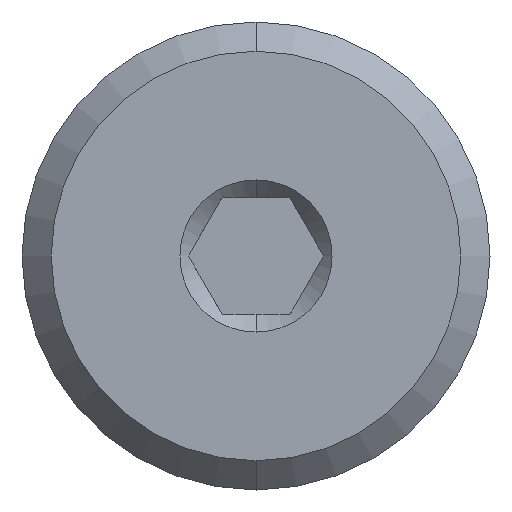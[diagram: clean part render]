
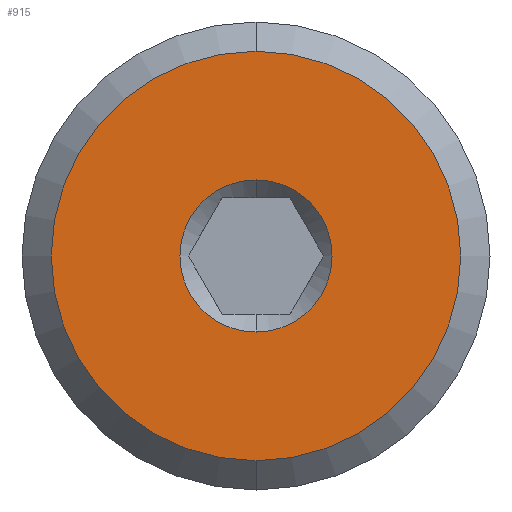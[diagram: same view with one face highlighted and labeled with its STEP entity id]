
A CAD part, front view. The second image highlights one B-rep face of the part: STEP entity #915.
In plain terms, the highlighted planar face has unit normal (0, -1, 0).
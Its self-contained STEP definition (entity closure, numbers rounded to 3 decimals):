
#14 = EDGE_LOOP ( 'NONE', ( #238, #805 ) ) ;
#94 = VERTEX_POINT ( 'NONE', #694 ) ;
#150 = CARTESIAN_POINT ( 'NONE',  ( 0., -19., 2.6 ) ) ;
#238 = ORIENTED_EDGE ( 'NONE', *, *, #544, .T. ) ;
#266 = AXIS2_PLACEMENT_3D ( 'NONE', #993, #953, #959 ) ;
#275 = CARTESIAN_POINT ( 'NONE',  ( 0., -19., 0. ) ) ;
#288 = ORIENTED_EDGE ( 'NONE', *, *, #545, .F. ) ;
#292 = CARTESIAN_POINT ( 'NONE',  ( 0., -19., 0. ) ) ;
#297 = ORIENTED_EDGE ( 'NONE', *, *, #435, .F. ) ;
#299 = DIRECTION ( 'NONE',  ( 0., -1., 0. ) ) ;
#305 = DIRECTION ( 'NONE',  ( 0., 0., -1. ) ) ;
#307 = AXIS2_PLACEMENT_3D ( 'NONE', #275, #299, #305 ) ;
#308 = AXIS2_PLACEMENT_3D ( 'NONE', #292, #862, #441 ) ;
#355 = AXIS2_PLACEMENT_3D ( 'NONE', #936, #935, #930 ) ;
#360 = VERTEX_POINT ( 'NONE', #1124 ) ;
#379 = AXIS2_PLACEMENT_3D ( 'NONE', #794, #702, #593 ) ;
#390 = EDGE_LOOP ( 'NONE', ( #288, #297 ) ) ;
#435 = EDGE_CURVE ( 'NONE', #602, #526, #934, .T. ) ;
#441 = DIRECTION ( 'NONE',  ( 0., 0., 1. ) ) ;
#464 = EDGE_CURVE ( 'NONE', #360, #94, #893, .T. ) ;
#526 = VERTEX_POINT ( 'NONE', #849 ) ;
#544 = EDGE_CURVE ( 'NONE', #94, #360, #802, .T. ) ;
#545 = EDGE_CURVE ( 'NONE', #526, #602, #795, .T. ) ;
#593 = DIRECTION ( 'NONE',  ( 0., 0., -1. ) ) ;
#602 = VERTEX_POINT ( 'NONE', #150 ) ;
#694 = CARTESIAN_POINT ( 'NONE',  ( 0., -19., 7. ) ) ;
#702 = DIRECTION ( 'NONE',  ( 0., -1., 0. ) ) ;
#703 = FACE_OUTER_BOUND ( 'NONE', #14, .T. ) ;
#717 = FACE_BOUND ( 'NONE', #390, .T. ) ;
#794 = CARTESIAN_POINT ( 'NONE',  ( 0., -19., 0. ) ) ;
#795 = CIRCLE ( 'NONE', #307, 2.6 ) ;
#802 = CIRCLE ( 'NONE', #308, 7. ) ;
#805 = ORIENTED_EDGE ( 'NONE', *, *, #464, .T. ) ;
#849 = CARTESIAN_POINT ( 'NONE',  ( 0., -19., -2.6 ) ) ;
#862 = DIRECTION ( 'NONE',  ( 0., -1., 0. ) ) ;
#893 = CIRCLE ( 'NONE', #355, 7. ) ;
#915 = ADVANCED_FACE ( 'NONE', ( #703, #717 ), #970, .F. ) ;
#930 = DIRECTION ( 'NONE',  ( 0., 0., 1. ) ) ;
#934 = CIRCLE ( 'NONE', #379, 2.6 ) ;
#935 = DIRECTION ( 'NONE',  ( 0., -1., 0. ) ) ;
#936 = CARTESIAN_POINT ( 'NONE',  ( 0., -19., 0. ) ) ;
#953 = DIRECTION ( 'NONE',  ( 0., 1., 0. ) ) ;
#959 = DIRECTION ( 'NONE',  ( 0., 0., 1. ) ) ;
#970 = PLANE ( 'NONE',  #266 ) ;
#993 = CARTESIAN_POINT ( 'NONE',  ( 8., -19., 0. ) ) ;
#1124 = CARTESIAN_POINT ( 'NONE',  ( 0., -19., -7. ) ) ;
